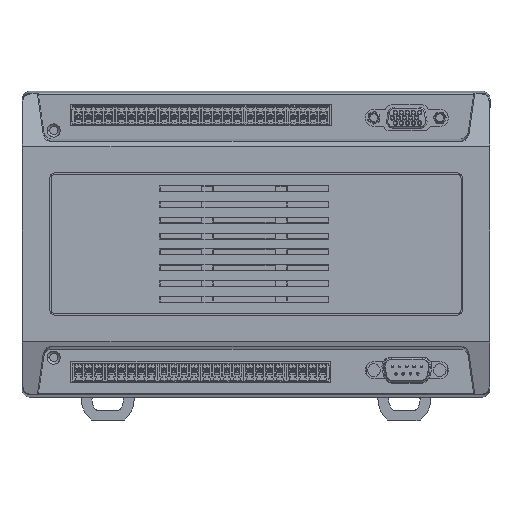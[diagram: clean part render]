
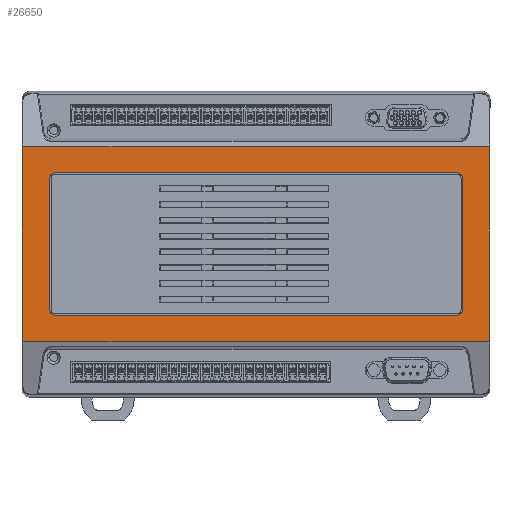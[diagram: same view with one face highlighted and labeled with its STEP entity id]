
A CAD part, top view. The second image highlights one B-rep face of the part: STEP entity #26650.
In plain terms, the highlighted planar face has unit normal (0, 0, 1).
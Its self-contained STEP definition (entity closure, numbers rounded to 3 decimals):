
#607 = DIRECTION ( 'NONE',  ( -1., 0., 0. ) ) ;
#7984 = CARTESIAN_POINT ( 'NONE',  ( 160.5, 28., 17. ) ) ;
#11064 = EDGE_CURVE ( 'NONE', #70753, #90730, #203239, .T. ) ;
#11811 = EDGE_CURVE ( 'NONE', #34001, #15011, #150160, .T. ) ;
#12637 = CIRCLE ( 'NONE', #34012, 2. ) ;
#13238 = DIRECTION ( 'NONE',  ( 0., -1., 0. ) ) ;
#15011 = VERTEX_POINT ( 'NONE', #163109 ) ;
#17818 = DIRECTION ( 'NONE',  ( 1., 0., 0. ) ) ;
#19816 = FACE_OUTER_BOUND ( 'NONE', #218988, .T. ) ;
#20424 = VERTEX_POINT ( 'NONE', #34952 ) ;
#20920 = EDGE_CURVE ( 'NONE', #53624, #34447, #250118, .T. ) ;
#22010 = CARTESIAN_POINT ( 'NONE',  ( -4.15, 18.173, 17. ) ) ;
#22246 = CARTESIAN_POINT ( 'NONE',  ( 173., 18., 17. ) ) ;
#24065 = AXIS2_PLACEMENT_3D ( 'NONE', #27820, #165157, #47651 ) ;
#26650 = ADVANCED_FACE ( 'NONE', ( #19816, #228413 ), #198061, .T. ) ;
#27820 = CARTESIAN_POINT ( 'NONE',  ( 160.5, 30., 17. ) ) ;
#29556 = DIRECTION ( 'NONE',  ( 1., 0., 0. ) ) ;
#30843 = CARTESIAN_POINT ( 'NONE',  ( 8., 80., 17. ) ) ;
#32522 = CARTESIAN_POINT ( 'NONE',  ( -4.15, 91.827, 17. ) ) ;
#34001 = VERTEX_POINT ( 'NONE', #70432 ) ;
#34012 = AXIS2_PLACEMENT_3D ( 'NONE', #110684, #247640, #130389 ) ;
#34447 = VERTEX_POINT ( 'NONE', #117415 ) ;
#34952 = CARTESIAN_POINT ( 'NONE',  ( 6., 80., 17. ) ) ;
#40419 = LINE ( 'NONE', #104007, #230556 ) ;
#42019 = DIRECTION ( 'NONE',  ( 1., 0., 0. ) ) ;
#46826 = EDGE_LOOP ( 'NONE', ( #217229, #119447, #246957, #218094, #145113, #191629, #149420, #105166 ) ) ;
#47304 = VERTEX_POINT ( 'NONE', #86107 ) ;
#47651 = DIRECTION ( 'NONE',  ( 1., 0., 0. ) ) ;
#49586 = EDGE_CURVE ( 'NONE', #20424, #54496, #184665, .T. ) ;
#50656 = DIRECTION ( 'NONE',  ( 1., 0., 0. ) ) ;
#53624 = VERTEX_POINT ( 'NONE', #83683 ) ;
#53659 = VERTEX_POINT ( 'NONE', #7984 ) ;
#54008 = CARTESIAN_POINT ( 'NONE',  ( 6., 30., 17. ) ) ;
#54496 = VERTEX_POINT ( 'NONE', #95501 ) ;
#55951 = VECTOR ( 'NONE', #17818, 1000. ) ;
#58231 = EDGE_CURVE ( 'NONE', #72572, #20424, #40419, .T. ) ;
#68583 = DIRECTION ( 'NONE',  ( 0., 0., -1. ) ) ;
#69143 = CARTESIAN_POINT ( 'NONE',  ( 173., 82., 17. ) ) ;
#70432 = CARTESIAN_POINT ( 'NONE',  ( 172.65, 91.827, 17. ) ) ;
#70753 = VERTEX_POINT ( 'NONE', #22010 ) ;
#72572 = VERTEX_POINT ( 'NONE', #54008 ) ;
#81069 = CIRCLE ( 'NONE', #117366, 2. ) ;
#81939 = VERTEX_POINT ( 'NONE', #244034 ) ;
#82894 = CARTESIAN_POINT ( 'NONE',  ( -4.15, -3., 17. ) ) ;
#83496 = EDGE_CURVE ( 'NONE', #34001, #90730, #145514, .T. ) ;
#83683 = CARTESIAN_POINT ( 'NONE',  ( 162.5, 80., 17. ) ) ;
#84278 = EDGE_CURVE ( 'NONE', #54496, #47304, #129291, .T. ) ;
#86107 = CARTESIAN_POINT ( 'NONE',  ( 160.5, 82., 17. ) ) ;
#90730 = VERTEX_POINT ( 'NONE', #32522 ) ;
#93270 = EDGE_CURVE ( 'NONE', #70753, #15011, #212365, .T. ) ;
#95501 = CARTESIAN_POINT ( 'NONE',  ( 8., 82., 17. ) ) ;
#97958 = DIRECTION ( 'NONE',  ( -1., 0., 0. ) ) ;
#102861 = VECTOR ( 'NONE', #607, 1000. ) ;
#103506 = DIRECTION ( 'NONE',  ( 0., 1., 0. ) ) ;
#104007 = CARTESIAN_POINT ( 'NONE',  ( 6., 18., 17. ) ) ;
#105166 = ORIENTED_EDGE ( 'NONE', *, *, #20920, .T. ) ;
#110684 = CARTESIAN_POINT ( 'NONE',  ( 160.5, 80., 17. ) ) ;
#110777 = ORIENTED_EDGE ( 'NONE', *, *, #83496, .T. ) ;
#111155 = CARTESIAN_POINT ( 'NONE',  ( 162.5, 18., 17. ) ) ;
#112473 = DIRECTION ( 'NONE',  ( 0., -1., 0. ) ) ;
#117366 = AXIS2_PLACEMENT_3D ( 'NONE', #186002, #68583, #205613 ) ;
#117415 = CARTESIAN_POINT ( 'NONE',  ( 162.5, 30., 17. ) ) ;
#119447 = ORIENTED_EDGE ( 'NONE', *, *, #187065, .T. ) ;
#129291 = LINE ( 'NONE', #69143, #227336 ) ;
#130389 = DIRECTION ( 'NONE',  ( 1., 0., 0. ) ) ;
#133882 = ORIENTED_EDGE ( 'NONE', *, *, #11811, .F. ) ;
#136812 = EDGE_CURVE ( 'NONE', #47304, #53624, #12637, .T. ) ;
#145113 = ORIENTED_EDGE ( 'NONE', *, *, #49586, .T. ) ;
#145514 = LINE ( 'NONE', #215231, #249701 ) ;
#149420 = ORIENTED_EDGE ( 'NONE', *, *, #136812, .T. ) ;
#150160 = LINE ( 'NONE', #229723, #254391 ) ;
#151138 = VECTOR ( 'NONE', #103506, 1000. ) ;
#157616 = CARTESIAN_POINT ( 'NONE',  ( 173., 28., 17. ) ) ;
#159476 = DIRECTION ( 'NONE',  ( 0., 0., 1. ) ) ;
#159836 = CIRCLE ( 'NONE', #24065, 2. ) ;
#159992 = ORIENTED_EDGE ( 'NONE', *, *, #11064, .F. ) ;
#163109 = CARTESIAN_POINT ( 'NONE',  ( 172.65, 18.173, 17. ) ) ;
#165157 = DIRECTION ( 'NONE',  ( 0., 0., -1. ) ) ;
#168142 = DIRECTION ( 'NONE',  ( 0., 0., -1. ) ) ;
#184665 = CIRCLE ( 'NONE', #252921, 2. ) ;
#186002 = CARTESIAN_POINT ( 'NONE',  ( 8., 30., 17. ) ) ;
#187065 = EDGE_CURVE ( 'NONE', #53659, #81939, #206958, .T. ) ;
#191629 = ORIENTED_EDGE ( 'NONE', *, *, #84278, .T. ) ;
#191903 = VECTOR ( 'NONE', #13238, 1000. ) ;
#198061 = PLANE ( 'NONE',  #209948 ) ;
#203239 = LINE ( 'NONE', #82894, #151138 ) ;
#205613 = DIRECTION ( 'NONE',  ( 1., 0., 0. ) ) ;
#206958 = LINE ( 'NONE', #157616, #102861 ) ;
#209948 = AXIS2_PLACEMENT_3D ( 'NONE', #22246, #159476, #42019 ) ;
#212365 = LINE ( 'NONE', #233903, #55951 ) ;
#215231 = CARTESIAN_POINT ( 'NONE',  ( 173., 91.827, 17. ) ) ;
#217229 = ORIENTED_EDGE ( 'NONE', *, *, #222989, .T. ) ;
#218094 = ORIENTED_EDGE ( 'NONE', *, *, #58231, .T. ) ;
#218988 = EDGE_LOOP ( 'NONE', ( #110777, #159992, #235329, #133882 ) ) ;
#221259 = DIRECTION ( 'NONE',  ( 0., 1., 0. ) ) ;
#222989 = EDGE_CURVE ( 'NONE', #34447, #53659, #159836, .T. ) ;
#227336 = VECTOR ( 'NONE', #29556, 1000. ) ;
#228413 = FACE_BOUND ( 'NONE', #46826, .T. ) ;
#229723 = CARTESIAN_POINT ( 'NONE',  ( 172.65, 113., 17. ) ) ;
#230556 = VECTOR ( 'NONE', #221259, 1000. ) ;
#231697 = EDGE_CURVE ( 'NONE', #81939, #72572, #81069, .T. ) ;
#233903 = CARTESIAN_POINT ( 'NONE',  ( 173., 18.173, 17. ) ) ;
#235329 = ORIENTED_EDGE ( 'NONE', *, *, #93270, .T. ) ;
#244034 = CARTESIAN_POINT ( 'NONE',  ( 8., 28., 17. ) ) ;
#246957 = ORIENTED_EDGE ( 'NONE', *, *, #231697, .T. ) ;
#247640 = DIRECTION ( 'NONE',  ( 0., 0., -1. ) ) ;
#249701 = VECTOR ( 'NONE', #97958, 1000. ) ;
#250118 = LINE ( 'NONE', #111155, #191903 ) ;
#252921 = AXIS2_PLACEMENT_3D ( 'NONE', #30843, #168142, #50656 ) ;
#254391 = VECTOR ( 'NONE', #112473, 1000. ) ;
